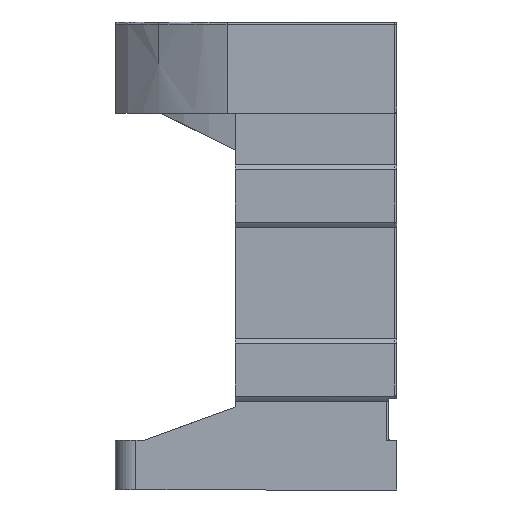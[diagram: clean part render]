
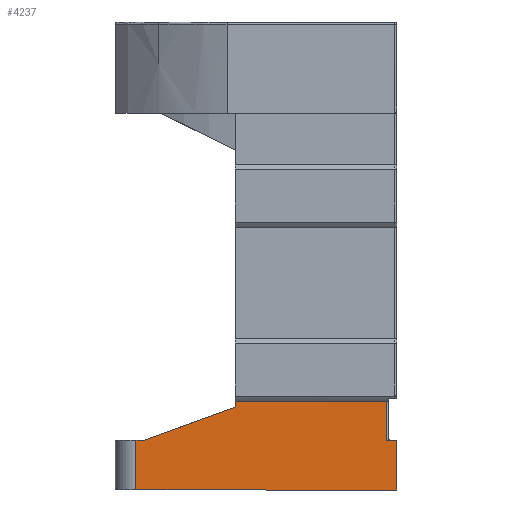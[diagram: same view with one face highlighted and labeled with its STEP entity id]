
A CAD part, left-side view. The second image highlights one B-rep face of the part: STEP entity #4237.
In plain terms, the highlighted planar face has unit normal (-1, 0, 0).
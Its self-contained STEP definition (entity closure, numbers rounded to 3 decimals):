
#16 = DIRECTION ( 'NONE',  ( 0., 0., 1. ) ) ;
#49 = CARTESIAN_POINT ( 'NONE',  ( -43., -43., 6. ) ) ;
#67 = ORIENTED_EDGE ( 'NONE', *, *, #3132, .T. ) ;
#216 = CARTESIAN_POINT ( 'NONE',  ( -43., -31.5, 6. ) ) ;
#287 = EDGE_CURVE ( 'NONE', #3282, #960, #4717, .T. ) ;
#319 = VECTOR ( 'NONE', #3776, 1000. ) ;
#367 = DIRECTION ( 'NONE',  ( 0., -1., 0. ) ) ;
#478 = AXIS2_PLACEMENT_3D ( 'NONE', #5336, #2078, #5858 ) ;
#485 = LINE ( 'NONE', #6502, #319 ) ;
#538 = ORIENTED_EDGE ( 'NONE', *, *, #3602, .T. ) ;
#800 = VECTOR ( 'NONE', #4917, 1000. ) ;
#960 = VERTEX_POINT ( 'NONE', #2017 ) ;
#1006 = ORIENTED_EDGE ( 'NONE', *, *, #6961, .T. ) ;
#1147 = CARTESIAN_POINT ( 'NONE',  ( -43., 27., 6. ) ) ;
#1157 = VERTEX_POINT ( 'NONE', #1514 ) ;
#1187 = EDGE_CURVE ( 'NONE', #1923, #6818, #5140, .T. ) ;
#1190 = AXIS2_PLACEMENT_3D ( 'NONE', #2317, #6103, #2862 ) ;
#1224 = CARTESIAN_POINT ( 'NONE',  ( -43., -34., 6. ) ) ;
#1432 = CARTESIAN_POINT ( 'NONE',  ( -43., -31.5, 15.45 ) ) ;
#1483 = VERTEX_POINT ( 'NONE', #4128 ) ;
#1514 = CARTESIAN_POINT ( 'NONE',  ( -43., 5., 15.45 ) ) ;
#1552 = PLANE ( 'NONE',  #2404 ) ;
#1584 = DIRECTION ( 'NONE',  ( 1., 0., 0. ) ) ;
#1660 = CARTESIAN_POINT ( 'NONE',  ( -43., 26.917, 6.03 ) ) ;
#1877 = CARTESIAN_POINT ( 'NONE',  ( -43., 29., 6. ) ) ;
#1923 = VERTEX_POINT ( 'NONE', #2772 ) ;
#2017 = CARTESIAN_POINT ( 'NONE',  ( -43., 27.088, 6. ) ) ;
#2026 = LINE ( 'NONE', #2793, #4741 ) ;
#2078 = DIRECTION ( 'NONE',  ( 1., 0., 0. ) ) ;
#2133 = CARTESIAN_POINT ( 'NONE',  ( -43., -34., -6. ) ) ;
#2211 = CARTESIAN_POINT ( 'NONE',  ( -43., -34., 0. ) ) ;
#2253 = VECTOR ( 'NONE', #2471, 1000. ) ;
#2317 = CARTESIAN_POINT ( 'NONE',  ( -43., 5.5, 14.35 ) ) ;
#2363 = ORIENTED_EDGE ( 'NONE', *, *, #3054, .F. ) ;
#2404 = AXIS2_PLACEMENT_3D ( 'NONE', #2647, #1584, #5378 ) ;
#2410 = VECTOR ( 'NONE', #16, 1000. ) ;
#2471 = DIRECTION ( 'NONE',  ( 0., -1., 0. ) ) ;
#2569 = VERTEX_POINT ( 'NONE', #216 ) ;
#2603 = VERTEX_POINT ( 'NONE', #1432 ) ;
#2604 = ORIENTED_EDGE ( 'NONE', *, *, #3355, .T. ) ;
#2611 = CARTESIAN_POINT ( 'NONE',  ( -43., 43., -6. ) ) ;
#2647 = CARTESIAN_POINT ( 'NONE',  ( -43., 43., 6. ) ) ;
#2670 = ORIENTED_EDGE ( 'NONE', *, *, #4214, .T. ) ;
#2765 = CIRCLE ( 'NONE', #478, 0.5 ) ;
#2772 = CARTESIAN_POINT ( 'NONE',  ( -43., 29., -6. ) ) ;
#2793 = CARTESIAN_POINT ( 'NONE',  ( -43., -31.5, 6. ) ) ;
#2862 = DIRECTION ( 'NONE',  ( 0., 1., 0. ) ) ;
#3054 = EDGE_CURVE ( 'NONE', #2569, #3601, #3949, .T. ) ;
#3097 = VERTEX_POINT ( 'NONE', #1660 ) ;
#3132 = EDGE_CURVE ( 'NONE', #2569, #2603, #2026, .T. ) ;
#3267 = VECTOR ( 'NONE', #6113, 1000. ) ;
#3282 = VERTEX_POINT ( 'NONE', #1877 ) ;
#3355 = EDGE_CURVE ( 'NONE', #2603, #1157, #6415, .T. ) ;
#3438 = ORIENTED_EDGE ( 'NONE', *, *, #6905, .F. ) ;
#3601 = VERTEX_POINT ( 'NONE', #1224 ) ;
#3602 = EDGE_CURVE ( 'NONE', #1483, #4804, #4017, .T. ) ;
#3648 = LINE ( 'NONE', #2211, #800 ) ;
#3776 = DIRECTION ( 'NONE',  ( 0., 0., -1. ) ) ;
#3829 = DIRECTION ( 'NONE',  ( 0., 0., 1. ) ) ;
#3949 = LINE ( 'NONE', #49, #6677 ) ;
#3968 = EDGE_CURVE ( 'NONE', #3097, #4804, #4474, .T. ) ;
#4017 = CIRCLE ( 'NONE', #1190, 0.5 ) ;
#4128 = CARTESIAN_POINT ( 'NONE',  ( -43., 5., 14.35 ) ) ;
#4204 = DIRECTION ( 'NONE',  ( 0., 1., 0. ) ) ;
#4214 = EDGE_CURVE ( 'NONE', #3097, #960, #2765, .T. ) ;
#4237 = ADVANCED_FACE ( 'NONE', ( #6571 ), #1552, .F. ) ;
#4310 = EDGE_CURVE ( 'NONE', #3282, #1923, #485, .T. ) ;
#4320 = ORIENTED_EDGE ( 'NONE', *, *, #287, .F. ) ;
#4474 = LINE ( 'NONE', #1147, #5734 ) ;
#4717 = LINE ( 'NONE', #6071, #3267 ) ;
#4741 = VECTOR ( 'NONE', #3829, 1000. ) ;
#4804 = VERTEX_POINT ( 'NONE', #4866 ) ;
#4866 = CARTESIAN_POINT ( 'NONE',  ( -43., 5.329, 13.88 ) ) ;
#4894 = CARTESIAN_POINT ( 'NONE',  ( -43., 5., 0. ) ) ;
#4917 = DIRECTION ( 'NONE',  ( 0., 0., 1. ) ) ;
#4930 = DIRECTION ( 'NONE',  ( 0., -0.94, 0.342 ) ) ;
#4986 = VECTOR ( 'NONE', #4204, 1000. ) ;
#5140 = LINE ( 'NONE', #2611, #2253 ) ;
#5284 = CARTESIAN_POINT ( 'NONE',  ( -43., -34., 15.45 ) ) ;
#5296 = LINE ( 'NONE', #4894, #2410 ) ;
#5336 = CARTESIAN_POINT ( 'NONE',  ( -43., 27.088, 6.5 ) ) ;
#5378 = DIRECTION ( 'NONE',  ( 0., 1., 0. ) ) ;
#5734 = VECTOR ( 'NONE', #4930, 1000. ) ;
#5858 = DIRECTION ( 'NONE',  ( 0., 1., 0. ) ) ;
#6029 = ORIENTED_EDGE ( 'NONE', *, *, #4310, .T. ) ;
#6055 = ORIENTED_EDGE ( 'NONE', *, *, #1187, .T. ) ;
#6071 = CARTESIAN_POINT ( 'NONE',  ( -43., 43., 6. ) ) ;
#6103 = DIRECTION ( 'NONE',  ( 1., 0., 0. ) ) ;
#6113 = DIRECTION ( 'NONE',  ( 0., -1., 0. ) ) ;
#6415 = LINE ( 'NONE', #5284, #4986 ) ;
#6502 = CARTESIAN_POINT ( 'NONE',  ( -43., 29., 6. ) ) ;
#6521 = ORIENTED_EDGE ( 'NONE', *, *, #3968, .F. ) ;
#6555 = EDGE_LOOP ( 'NONE', ( #2363, #67, #2604, #3438, #538, #6521, #2670, #4320, #6029, #6055, #1006 ) ) ;
#6571 = FACE_OUTER_BOUND ( 'NONE', #6555, .T. ) ;
#6677 = VECTOR ( 'NONE', #367, 1000. ) ;
#6818 = VERTEX_POINT ( 'NONE', #2133 ) ;
#6905 = EDGE_CURVE ( 'NONE', #1483, #1157, #5296, .T. ) ;
#6961 = EDGE_CURVE ( 'NONE', #6818, #3601, #3648, .T. ) ;
